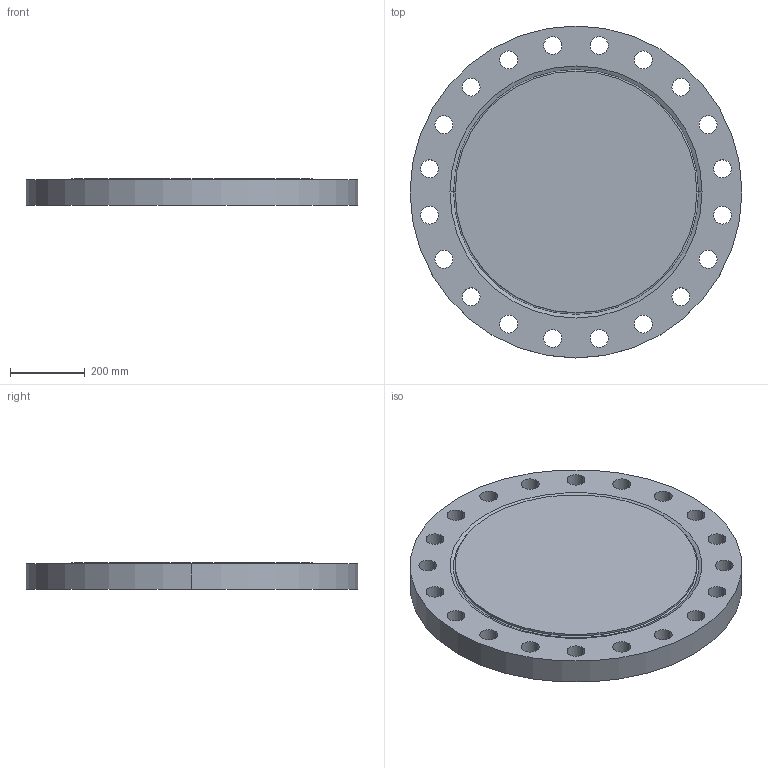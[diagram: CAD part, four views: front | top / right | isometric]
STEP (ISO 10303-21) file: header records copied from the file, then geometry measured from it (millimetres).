
FILE_DESCRIPTION (( 'STEP AP214' ), '1' );
FILE_NAME ('PN40 DN600 Type 05 - Type H Face.STEP', '2018-12-28T23:12:58', ( '' ), ( '' ), 'SwSTEP 2.0', 'SolidWorks 2019', '' );
FILE_SCHEMA (( 'AUTOMOTIVE_DESIGN' ));
Length unit declared in the file: millimetre
Products named in the file (1): PN40 DN600 Type 05 - Type H Face
Bounding box: 890 x 890 x 72 mm (x, y, z)
Volume: 41328655.8 mm3; surface area: 1588830.8 mm2
Topology: 1 solids, 1 shells, 51 faces, 140 edges, 92 vertices
Faces by surface type: cylinder 44, plane 3, torus 2, cone 2
Entity records: 1790 total; most frequent: DIRECTION 338, CARTESIAN_POINT 284, ORIENTED_EDGE 280, AXIS2_PLACEMENT_3D 146, EDGE_CURVE 140, CIRCLE 94, VERTEX_POINT 92, EDGE_LOOP 92
